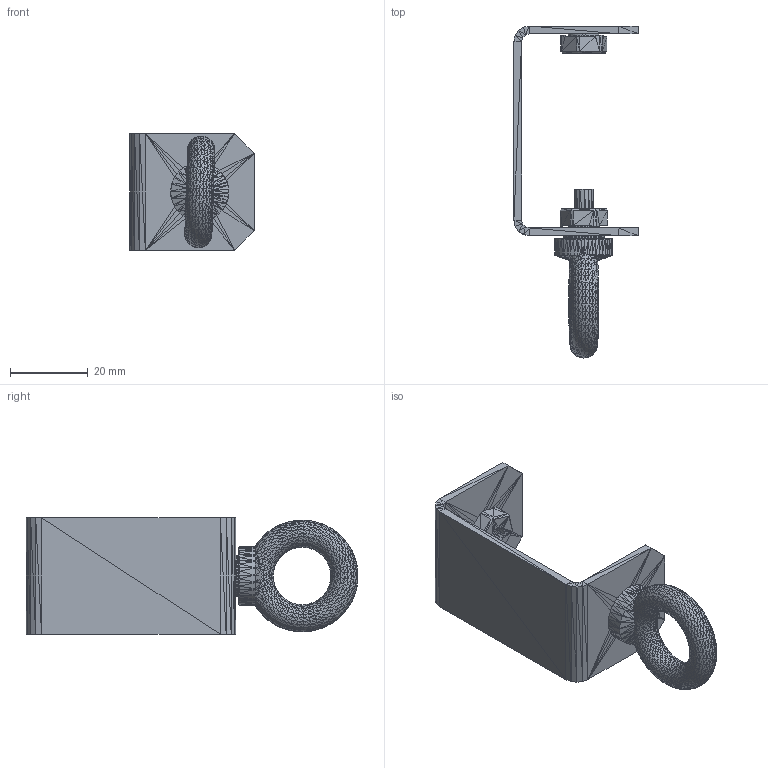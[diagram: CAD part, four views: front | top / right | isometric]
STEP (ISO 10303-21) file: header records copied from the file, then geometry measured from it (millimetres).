
FILE_DESCRIPTION((''),'2;1');
FILE_NAME('051088', '2026-01-29T08:21:28', (''), (''), 'ImageToStl.com STEP Converter','', '');
FILE_SCHEMA(('AUTOMOTIVE_DESIGN_CC2'));
Length unit declared in the file: metre
Products named in the file (1): product0
Bounding box: 32 x 85.47 x 30 mm (x, y, z)
Surface area: 9905.2 mm2 (no closed solid volume)
Topology: 0 solids, 4768 shells, 4768 faces, 14304 edges, 2382 vertices
Faces by surface type: plane 4768
Entity records: 109688 total; most frequent: DIRECTION 23842, ORIENTED_EDGE 14304, EDGE_CURVE 14304, LINE 14304, VECTOR 14304, AXIS2_PLACEMENT_3D 4769, FACE_SURFACE 4768, PLANE 4768
